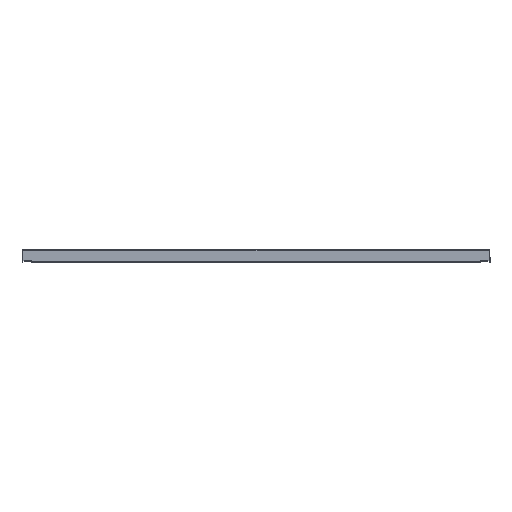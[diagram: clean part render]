
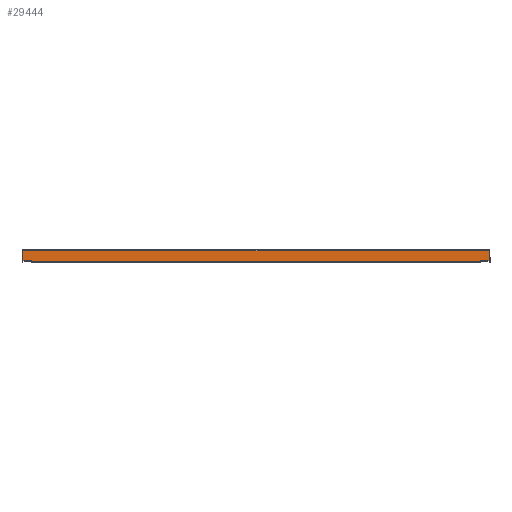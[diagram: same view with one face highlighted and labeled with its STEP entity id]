
A CAD part, top view. The second image highlights one B-rep face of the part: STEP entity #29444.
In plain terms, the highlighted planar face has unit normal (0, 0, 1) as drawn and (0, 1, 0) by its records, which use the part's own axes.
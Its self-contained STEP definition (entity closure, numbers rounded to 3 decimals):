
#29441 = EDGE_CURVE ( 'NONE', #29520, #29445, #48026, .T. ) ;
#29444 = ADVANCED_FACE ( 'NONE', ( #48023 ), #48028, .F. ) ;
#29445 = VERTEX_POINT ( 'NONE', #48112 ) ;
#29446 = ORIENTED_EDGE ( 'NONE', *, *, #29448, .T. ) ;
#29447 = ORIENTED_EDGE ( 'NONE', *, *, #29449, .T. ) ;
#29448 = EDGE_CURVE ( 'NONE', #29512, #29520, #48010, .T. ) ;
#29449 = EDGE_CURVE ( 'NONE', #29501, #29512, #48093, .T. ) ;
#29450 = ORIENTED_EDGE ( 'NONE', *, *, #29516, .T. ) ;
#29480 = VERTEX_POINT ( 'NONE', #48228 ) ;
#29488 = VERTEX_POINT ( 'NONE', #48195 ) ;
#29489 = VERTEX_POINT ( 'NONE', #48183 ) ;
#29490 = ORIENTED_EDGE ( 'NONE', *, *, #29441, .T. ) ;
#29491 = EDGE_CURVE ( 'NONE', #29480, #29445, #47184, .T. ) ;
#29492 = ORIENTED_EDGE ( 'NONE', *, *, #29517, .T. ) ;
#29493 = ORIENTED_EDGE ( 'NONE', *, *, #29491, .F. ) ;
#29496 = EDGE_CURVE ( 'NONE', #29489, #29488, #46178, .T. ) ;
#29497 = EDGE_CURVE ( 'NONE', #29489, #29480, #47673, .T. ) ;
#29498 = ORIENTED_EDGE ( 'NONE', *, *, #29496, .T. ) ;
#29501 = VERTEX_POINT ( 'NONE', #48299 ) ;
#29504 = EDGE_LOOP ( 'NONE', ( #29447, #29446, #29490, #29493, #29505, #29498, #29492, #29450 ) ) ;
#29505 = ORIENTED_EDGE ( 'NONE', *, *, #29497, .F. ) ;
#29512 = VERTEX_POINT ( 'NONE', #48288 ) ;
#29514 = VERTEX_POINT ( 'NONE', #48294 ) ;
#29516 = EDGE_CURVE ( 'NONE', #29514, #29501, #48388, .T. ) ;
#29517 = EDGE_CURVE ( 'NONE', #29488, #29514, #48377, .T. ) ;
#29520 = VERTEX_POINT ( 'NONE', #48362 ) ;
#45656 = VECTOR ( 'NONE', #45685, 39.37 ) ;
#45685 = DIRECTION ( 'NONE',  ( 1., 0., 0. ) ) ;
#46170 = DIRECTION ( 'NONE',  ( 0., 0., -1. ) ) ;
#46172 = CARTESIAN_POINT ( 'NONE',  ( 18.661, 9.851, 0.938 ) ) ;
#46178 = LINE ( 'NONE', #46172, #45656 ) ;
#46216 = VECTOR ( 'NONE', #46170, 39.37 ) ;
#47165 = DIRECTION ( 'NONE',  ( 1., 0., 0. ) ) ;
#47171 = CARTESIAN_POINT ( 'NONE',  ( 18.661, 9.851, 0.115 ) ) ;
#47184 = LINE ( 'NONE', #47171, #47195 ) ;
#47195 = VECTOR ( 'NONE', #47165, 39.37 ) ;
#47671 = CARTESIAN_POINT ( 'NONE',  ( -18.586, 9.85, 1.063 ) ) ;
#47673 = LINE ( 'NONE', #47671, #46216 ) ;
#48006 = DIRECTION ( 'NONE',  ( 0., 0., -1. ) ) ;
#48010 = LINE ( 'NONE', #48097, #48096 ) ;
#48013 = VECTOR ( 'NONE', #48006, 39.37 ) ;
#48023 = FACE_OUTER_BOUND ( 'NONE', #29504, .T. ) ;
#48025 = CARTESIAN_POINT ( 'NONE',  ( 18.585, 9.851, 1.063 ) ) ;
#48026 = LINE ( 'NONE', #48025, #48013 ) ;
#48028 = PLANE ( 'NONE',  #48111 ) ;
#48087 = DIRECTION ( 'NONE',  ( 0., 0., -1. ) ) ;
#48089 = VECTOR ( 'NONE', #48087, 39.37 ) ;
#48090 = CARTESIAN_POINT ( 'NONE',  ( 17.911, 9.851, 1.063 ) ) ;
#48093 = LINE ( 'NONE', #48090, #48089 ) ;
#48095 = DIRECTION ( 'NONE',  ( 1., 0., 0. ) ) ;
#48096 = VECTOR ( 'NONE', #48095, 39.37 ) ;
#48097 = CARTESIAN_POINT ( 'NONE',  ( 18.661, 9.851, 0.938 ) ) ;
#48104 = DIRECTION ( 'NONE',  ( 0., 0., -1. ) ) ;
#48106 = DIRECTION ( 'NONE',  ( 0., -1., 0. ) ) ;
#48110 = CARTESIAN_POINT ( 'NONE',  ( 18.661, 9.851, 1.063 ) ) ;
#48111 = AXIS2_PLACEMENT_3D ( 'NONE', #48110, #48106, #48104 ) ;
#48112 = CARTESIAN_POINT ( 'NONE',  ( 18.585, 9.851, 0.115 ) ) ;
#48183 = CARTESIAN_POINT ( 'NONE',  ( -18.586, 9.85, 0.938 ) ) ;
#48195 = CARTESIAN_POINT ( 'NONE',  ( -17.912, 9.85, 0.938 ) ) ;
#48228 = CARTESIAN_POINT ( 'NONE',  ( -18.586, 9.85, 0.115 ) ) ;
#48288 = CARTESIAN_POINT ( 'NONE',  ( 17.911, 9.851, 0.938 ) ) ;
#48294 = CARTESIAN_POINT ( 'NONE',  ( -17.912, 9.85, 0.948 ) ) ;
#48299 = CARTESIAN_POINT ( 'NONE',  ( 17.911, 9.851, 0.948 ) ) ;
#48362 = CARTESIAN_POINT ( 'NONE',  ( 18.585, 9.851, 0.938 ) ) ;
#48370 = DIRECTION ( 'NONE',  ( 0., 0., 1. ) ) ;
#48371 = VECTOR ( 'NONE', #48370, 39.37 ) ;
#48374 = CARTESIAN_POINT ( 'NONE',  ( -17.912, 9.85, 1.063 ) ) ;
#48377 = LINE ( 'NONE', #48374, #48371 ) ;
#48380 = DIRECTION ( 'NONE',  ( 1., 0., 0. ) ) ;
#48382 = VECTOR ( 'NONE', #48380, 39.37 ) ;
#48384 = CARTESIAN_POINT ( 'NONE',  ( -17.912, 9.85, 0.948 ) ) ;
#48388 = LINE ( 'NONE', #48384, #48382 ) ;
